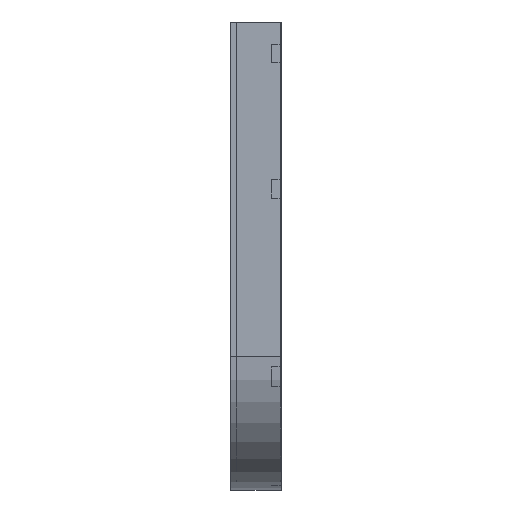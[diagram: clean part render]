
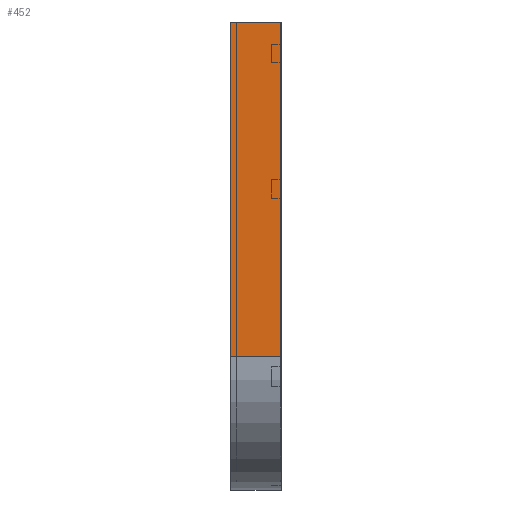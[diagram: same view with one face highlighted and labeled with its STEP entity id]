
A CAD part, left-side view. The second image highlights one B-rep face of the part: STEP entity #452.
In plain terms, the highlighted planar face has unit normal (-1, 0, 0).
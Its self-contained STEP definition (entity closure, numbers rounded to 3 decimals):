
#16 = DIRECTION ( 'NONE',  ( 0., 0., -1. ) ) ;
#62 = CARTESIAN_POINT ( 'NONE',  ( 0., 0., 0. ) ) ;
#140 = AXIS2_PLACEMENT_3D ( 'NONE', #1165, #1984, #547 ) ;
#175 = ORIENTED_EDGE ( 'NONE', *, *, #1433, .T. ) ;
#202 = CARTESIAN_POINT ( 'NONE',  ( 0., 0., -750. ) ) ;
#308 = EDGE_CURVE ( 'NONE', #610, #1161, #1859, .T. ) ;
#347 = CARTESIAN_POINT ( 'NONE',  ( 0., 112.5, 0. ) ) ;
#370 = ORIENTED_EDGE ( 'NONE', *, *, #1496, .F. ) ;
#375 = ORIENTED_EDGE ( 'NONE', *, *, #308, .T. ) ;
#378 = EDGE_CURVE ( 'NONE', #1403, #1161, #836, .T. ) ;
#399 = VERTEX_POINT ( 'NONE', #347 ) ;
#446 = DIRECTION ( 'NONE',  ( 0., -1., 0. ) ) ;
#452 = ADVANCED_FACE ( 'NONE', ( #1340 ), #863, .F. ) ;
#457 = EDGE_LOOP ( 'NONE', ( #2056, #370, #175, #375 ) ) ;
#487 = VECTOR ( 'NONE', #2054, 1000. ) ;
#547 = DIRECTION ( 'NONE',  ( 0., 0., -1. ) ) ;
#610 = VERTEX_POINT ( 'NONE', #2030 ) ;
#776 = CARTESIAN_POINT ( 'NONE',  ( 0., 0., 0. ) ) ;
#836 = LINE ( 'NONE', #62, #1003 ) ;
#848 = DIRECTION ( 'NONE',  ( 0., 0., -1. ) ) ;
#863 = PLANE ( 'NONE',  #140 ) ;
#973 = LINE ( 'NONE', #1132, #1282 ) ;
#1003 = VECTOR ( 'NONE', #848, 1000. ) ;
#1132 = CARTESIAN_POINT ( 'NONE',  ( 0., 112.5, 0. ) ) ;
#1161 = VERTEX_POINT ( 'NONE', #202 ) ;
#1165 = CARTESIAN_POINT ( 'NONE',  ( 0., 0., 0. ) ) ;
#1266 = VECTOR ( 'NONE', #446, 1000. ) ;
#1282 = VECTOR ( 'NONE', #16, 1000. ) ;
#1340 = FACE_OUTER_BOUND ( 'NONE', #457, .T. ) ;
#1403 = VERTEX_POINT ( 'NONE', #1608 ) ;
#1433 = EDGE_CURVE ( 'NONE', #399, #610, #973, .T. ) ;
#1496 = EDGE_CURVE ( 'NONE', #399, #1403, #1945, .T. ) ;
#1608 = CARTESIAN_POINT ( 'NONE',  ( 0., 0., 0. ) ) ;
#1728 = CARTESIAN_POINT ( 'NONE',  ( 0., 0., -750. ) ) ;
#1859 = LINE ( 'NONE', #1728, #1266 ) ;
#1945 = LINE ( 'NONE', #776, #487 ) ;
#1984 = DIRECTION ( 'NONE',  ( 1., 0., 0. ) ) ;
#2030 = CARTESIAN_POINT ( 'NONE',  ( 0., 112.5, -750. ) ) ;
#2054 = DIRECTION ( 'NONE',  ( 0., -1., 0. ) ) ;
#2056 = ORIENTED_EDGE ( 'NONE', *, *, #378, .F. ) ;
